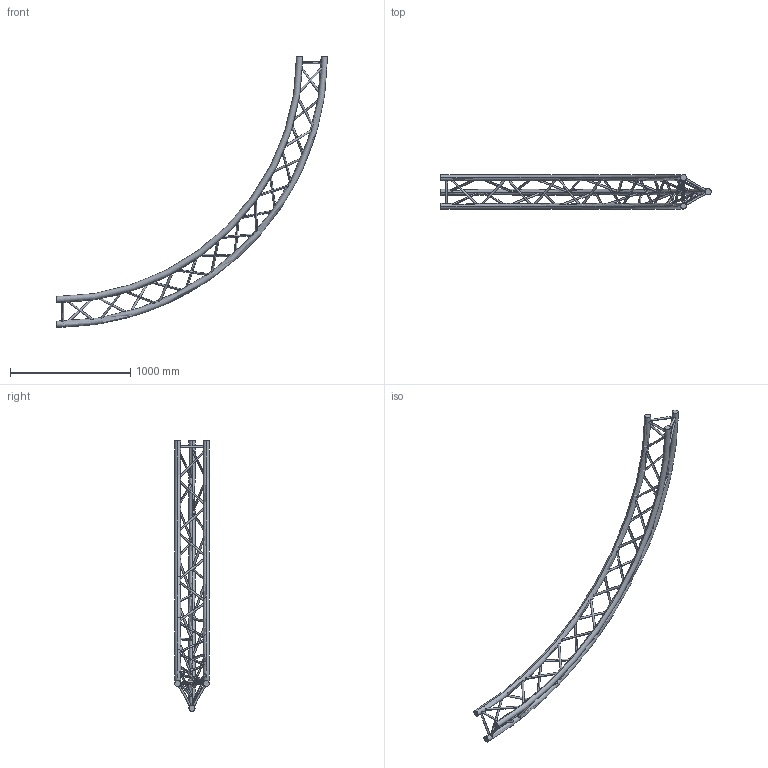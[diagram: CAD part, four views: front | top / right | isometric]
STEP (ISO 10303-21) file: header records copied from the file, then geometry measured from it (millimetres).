
FILE_DESCRIPTION (( 'STEP AP203' ), '1' );
FILE_NAME ('SXC29450PE.STEP', '2009-10-21T09:33:36', ( 'CEDIA' ), ( 'CEDIA INDUSTRIE' ), 'SwSTEP 2.0', 'SolidWorks 2009', '' );
FILE_SCHEMA (( 'CONFIG_CONTROL_DESIGN' ));
Length unit declared in the file: millimetre
Products named in the file (1): SXC29450PE
Bounding box: 2250 x 287 x 2250 mm (x, y, z)
Volume: 21636310.1 mm3; surface area: 2114006.7 mm2
Topology: 1 solids, 1 shells, 102 faces, 288 edges, 192 vertices
Faces by surface type: cylinder 90, torus 6, plane 6
Entity records: 11463 total; most frequent: CARTESIAN_POINT 8907, ORIENTED_EDGE 576, DIRECTION 332, EDGE_CURVE 288, VERTEX_POINT 192, EDGE_LOOP 192, B_SPLINE_CURVE_WITH_KNOTS 180, AXIS2_PLACEMENT_3D 121
